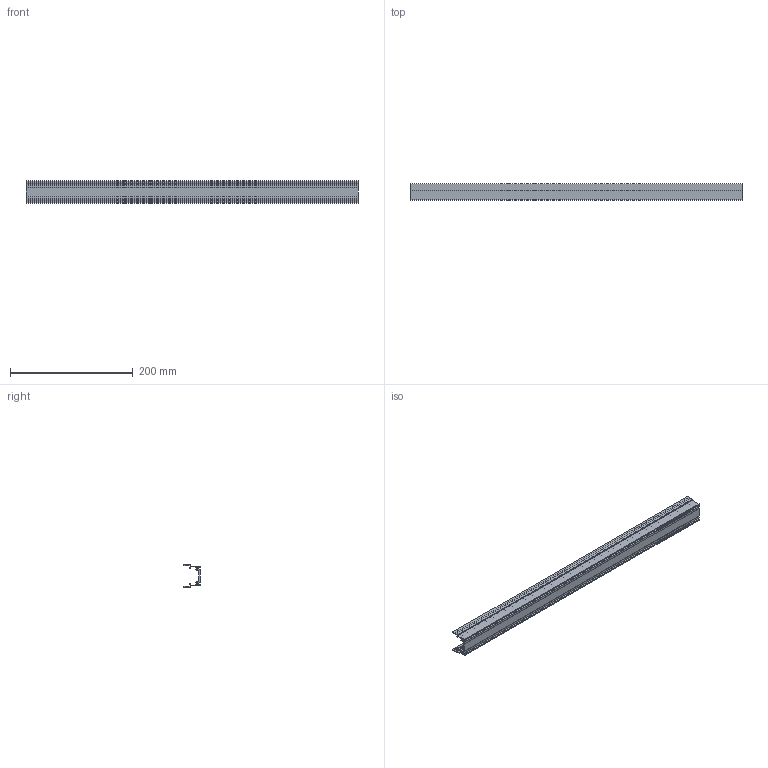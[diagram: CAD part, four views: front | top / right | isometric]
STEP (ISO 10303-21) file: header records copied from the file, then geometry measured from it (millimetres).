
FILE_DESCRIPTION( ( 'STEP AP203' ), '1' );
FILE_NAME( 'C:/Temp/Ganter_Step_05_03_2020/data/3_8/gn_646_3/Carrier profile GN 646.3-540-A (15).stp', '2020-03-12T15:24:21', ( 'License CC BY-ND 4.0' ), ( 'CADENAS' ), ' ', 'PARTsolutions', ' ' );
FILE_SCHEMA( ( 'CONFIG_CONTROL_DESIGN' ) );
Length unit declared in the file: millimetre
Products named in the file (1): _Carrier profile GN 646.3-540-A (15)
Bounding box: 540 x 26.5 x 36 mm (x, y, z)
Volume: 90686.5 mm3; surface area: 113680.7 mm2
Topology: 1 solids, 1 shells, 112 faces, 330 edges, 220 vertices
Faces by surface type: plane 70, cylinder 42
Entity records: 3782 total; most frequent: CARTESIAN_POINT 663, ORIENTED_EDGE 660, DIRECTION 640, EDGE_CURVE 330, LINE 246, VECTOR 246, VERTEX_POINT 220, AXIS2_PLACEMENT_3D 197
